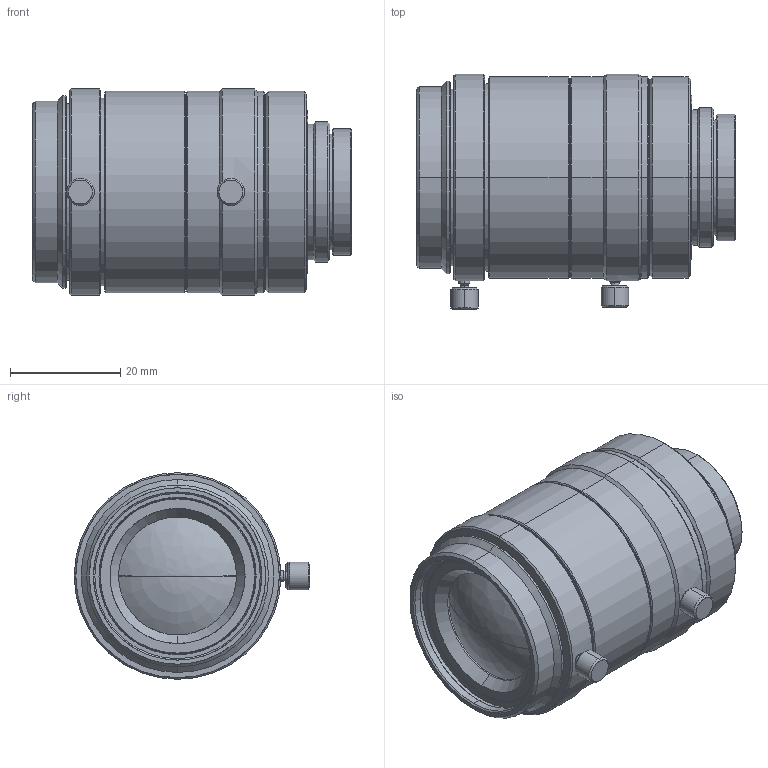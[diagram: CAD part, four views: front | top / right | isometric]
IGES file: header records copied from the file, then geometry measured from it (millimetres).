
Start section: SolidWorks IGES file using analytic representation for surfaces
Global section: file name: \\192.168.200.11\Development\4 ŠJ”­ŒŸ“¢\2021”N“x\D-2100236_VS-HVA1626\10.3DŠOŠÏƒ‚ƒfƒ‹\VS-HVA1626.IGS; native system: SolidWorks 2021; preprocessor: SolidWorks 2021; author: tsuzuki_vst; date: 210913.120208; units: millimetre
Bounding box: 57.88 x 42.75 x 37.5 mm (x, y, z)
Surface area: 10288.8 mm2 (no closed solid volume)
Topology: 0 solids, 0 shells, 136 faces, 2516 edges, 2515 vertices
Faces by surface type: revolution 116, bspline 20
